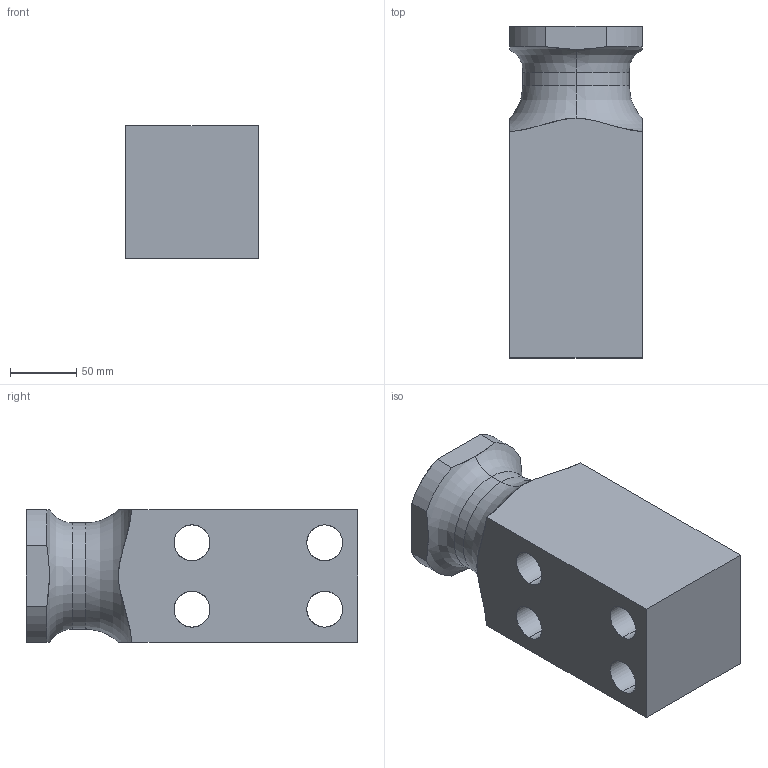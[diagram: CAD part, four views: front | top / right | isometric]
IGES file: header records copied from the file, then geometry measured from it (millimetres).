
Start section: START RECORD GO HERE.
Global section: file name: 395V-04-100-250.igs; native system: DASSAULT SYSTEMES CATIA V5 R20 - www.3ds.com; preprocessor: CATIA Version 5 Release 20 ; author: Utente; organization: NB04-ASUS; date: 20200410.084419; units: millimetre
Bounding box: 100 x 250 x 100 mm (x, y, z)
Surface area: 147236.3 mm2 (no closed solid volume)
Topology: 0 solids, 0 shells, 40 faces, 200 edges, 200 vertices
Faces by surface type: revolution 26, extrusion 14
